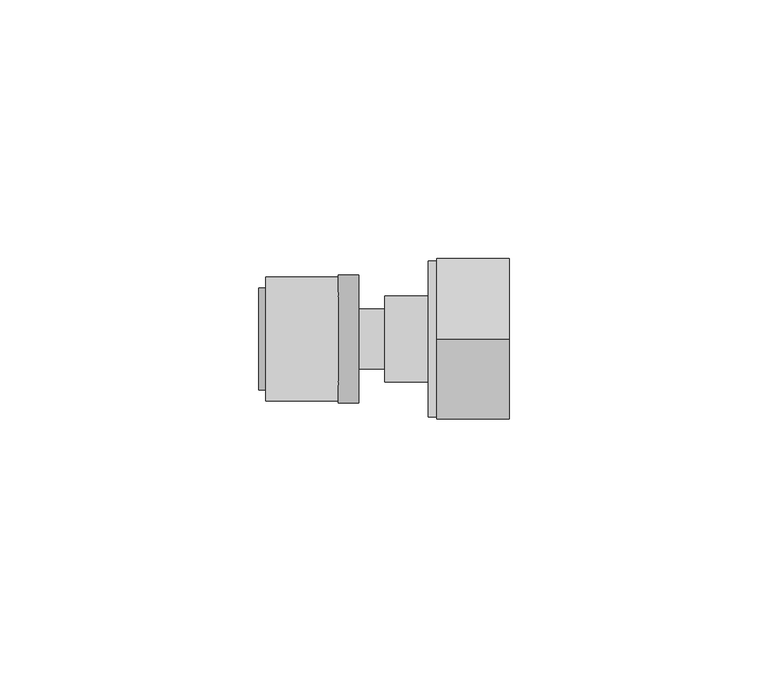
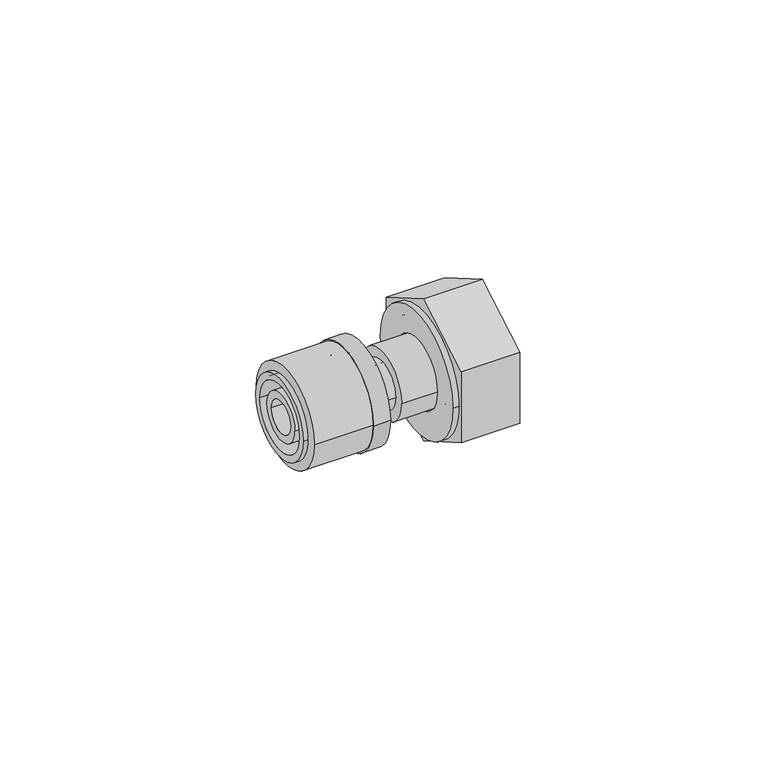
"""IFC4 building model written with IfcOpenShell, lengths in millimetres: pipe fitting geometry, FASTLOC_Adapter with union nut EX+ : FSL A union nut EX+ AT."""

from ifc_helpers import new_model, si_unit, point, frame, origin, origin_2d, place, context, project, spatial, polyline, circle_curve, trimmed, segment, composite_curve, outline, extrude, source, transform, mapped, element, save
from ifc_brep_helpers import plane_surface, cylinder_surface, revolved_surface, advanced_brep


def pipe_fitting_ca26b6f5(model_context):
    return source(origin(), model_context, "Body", "SolidModel", [
        extrude(outline(composite_curve([segment(trimmed(circle_curve(origin_2d(), 12.0), [point((12.0, 0.0))], [point((-12.0, 0.0))], False, "CARTESIAN"), True, "CONTINUOUS"), segment(trimmed(circle_curve(origin_2d(), 12.0), [point((-12.0, 0.0))], [point((12.0, 0.0))], False, "CARTESIAN"), True, "CONTINUOUS")], self_intersect=False), holes=[composite_curve([segment(trimmed(circle_curve(origin_2d(), 8.85), [point((8.85, 0.0))], [point((-8.85, 0.0))], True, "CARTESIAN"), True, "CONTINUOUS"), segment(trimmed(circle_curve(origin_2d(), 8.85), [point((-8.85, 0.0))], [point((8.85, 0.0))], True, "CARTESIAN"), True, "CONTINUOUS")], self_intersect=False)]), frame((-23.0, 0.0, 0.0), z_axis=(1.0, 0.0, 0.0), x_axis=(0.0, 1.0, 0.0)), (0.0, 0.0, 1.0), 14.0),
        advanced_brep(
        [(-9.0, -12.35, 0.0), (-9.0, 12.35, 0.0), (-5.0, 12.35, 0.0), (-5.0, -12.35, 0.0), (-24.3, -9.85, 0.0), (-24.3, 9.85, 0.0), (-9.0, 9.85, 0.0), (-9.0, -9.85, 0.0), (-5.0, -8.15, 0.0), (-5.0, 8.15, 0.0), (-24.3, 8.15, 0.0), (-24.3, -8.15, 0.0)],
        [
            (0, 1, circle_curve(frame((-9.0, 0.0, 0.0), z_axis=(1.0, 0.0, 0.0), x_axis=(0.0, 1.0, 0.0)), 12.35)),
            (1, 2),
            (2, 3, circle_curve(frame((-5.0, 0.0, 0.0), z_axis=(-1.0, 0.0, 0.0), x_axis=(0.0, 1.0, 0.0)), 12.35)),
            (3, 0),
            (4, 5, circle_curve(frame((-24.3, 0.0, 0.0), z_axis=(1.0, 0.0, 0.0), x_axis=(0.0, 1.0, 0.0)), 9.85)),
            (5, 6),
            (6, 7, circle_curve(frame((-9.0, 0.0, 0.0), z_axis=(-1.0, 0.0, 0.0), x_axis=(0.0, 1.0, 0.0)), 9.85)),
            (7, 4),
            (8, 9, circle_curve(frame((-5.0, 0.0, 0.0), z_axis=(1.0, 0.0, 0.0), x_axis=(0.0, 1.0, 0.0)), 8.15)),
            (9, 10),
            (10, 11, circle_curve(frame((-24.3, 0.0, 0.0), z_axis=(-1.0, 0.0, 0.0), x_axis=(0.0, 1.0, 0.0)), 8.15)),
            (11, 8),
            (1, 0, circle_curve(frame((-9.0, 0.0, 0.0), z_axis=(1.0, 0.0, 0.0), x_axis=(0.0, -1.0, 0.0)), 12.35)),
            (3, 2, circle_curve(frame((-5.0, 0.0, 0.0), z_axis=(-1.0, 0.0, 0.0), x_axis=(0.0, -1.0, 0.0)), 12.35)),
            (6, 7, circle_curve(frame((-9.0, 0.0, 0.0), z_axis=(1.0, 0.0, 0.0), x_axis=(0.0, -1.0, 0.0)), 9.85)),
            (5, 4, circle_curve(frame((-24.3, 0.0, 0.0), z_axis=(1.0, 0.0, 0.0), x_axis=(0.0, -1.0, 0.0)), 9.85)),
            (10, 11, circle_curve(frame((-24.3, 0.0, 0.0), z_axis=(1.0, 0.0, 0.0), x_axis=(0.0, -1.0, 0.0)), 8.15)),
            (9, 8, circle_curve(frame((-5.0, 0.0, 0.0), z_axis=(1.0, 0.0, 0.0), x_axis=(0.0, -1.0, 0.0)), 8.15)),
        ],
        [
            cylinder_surface(frame((-5.0, 0.0, 0.0), z_axis=(-1.0, 0.0, 0.0), x_axis=(0.0, 1.0, 0.0)), 12.35),
            cylinder_surface(frame((-5.0, 0.0, 0.0), z_axis=(-1.0, 0.0, 0.0), x_axis=(0.0, 1.0, 0.0)), 9.85),
            revolved_surface(polyline([(-24.3, 8.15, 0.0), (-5.0, 8.15, 0.0)]), (-5.0, 0.0, 0.0), (-1.0, 0.0, 0.0)),
            cylinder_surface(frame((-5.0, 0.0, 0.0), z_axis=(-1.0, 0.0, 0.0), x_axis=(0.0, -1.0, 0.0)), 12.35),
            plane_surface(frame((-9.0, 0.0, 0.0), z_axis=(-1.0, 0.0, 0.0), x_axis=(0.0, -1.0, 0.0))),
            cylinder_surface(frame((-5.0, 0.0, 0.0), z_axis=(-1.0, 0.0, 0.0), x_axis=(0.0, -1.0, 0.0)), 9.85),
            plane_surface(frame((-24.3, 0.0, 0.0), z_axis=(-1.0, 0.0, 0.0), x_axis=(0.0, -1.0, 0.0))),
            revolved_surface(polyline([(-24.3, -8.15, 0.0), (-5.0, -8.15, 0.0)]), (-5.0, 0.0, 0.0), (-1.0, 0.0, 0.0)),
            plane_surface(frame((-5.0, 0.0, 0.0), z_axis=(1.0, 0.0, 0.0), x_axis=(0.0, -1.0, 0.0))),
        ],
        [
            (0, [[1, 2, 3, 4]]),
            (1, [[5, 6, 7, 8]]),
            (2, [[9, 10, 11, 12]]),
            (3, [[13, -4, 14, -2]]),
            (4, [[-13, -1], [15, -7]]),
            (5, [[16, -8, -15, -6]]),
            (6, [[-16, -5], [17, -11]]),
            (7, [[18, -12, -17, -10]]),
            (8, [[-14, -3], [-18, -9]]),
        ],
    ),
        advanced_brep(
        [(-9.0, 5.8, 0.0), (-9.0, -5.8, 0.0), (-24.0, -5.8, 0.0), (-24.0, 5.8, 0.0), (-6.3, 6.9, 0.0), (-6.3, -6.9, 0.0), (-9.0, -6.9, 0.0), (-9.0, 6.9, 0.0), (0.0, 5.8, 0.0), (0.0, -5.8, 0.0), (-6.3, -5.8, 0.0), (-6.3, 5.8, 0.0), (-24.0, 3.95, 0.0), (-24.0, -3.95, 0.0), (0.0, -3.95, 0.0), (0.0, 3.95, 0.0)],
        [
            (0, 1, circle_curve(frame((-9.0, 0.0, 0.0), z_axis=(-1.0, 0.0, 0.0), x_axis=(0.0, -1.0, 0.0)), 5.8)),
            (1, 2),
            (2, 3, circle_curve(frame((-24.0, 0.0, 0.0), z_axis=(1.0, 0.0, 0.0), x_axis=(0.0, -1.0, 0.0)), 5.8)),
            (3, 0),
            (4, 5, circle_curve(frame((-6.3, 0.0, 0.0), z_axis=(-1.0, 0.0, 0.0), x_axis=(0.0, -1.0, 0.0)), 6.9)),
            (5, 6),
            (6, 7, circle_curve(frame((-9.0, 0.0, 0.0), z_axis=(1.0, 0.0, 0.0), x_axis=(0.0, -1.0, 0.0)), 6.9)),
            (7, 4),
            (8, 9, circle_curve(frame((0.0, 0.0, 0.0), z_axis=(-1.0, 0.0, 0.0), x_axis=(0.0, -1.0, 0.0)), 5.8)),
            (9, 10),
            (10, 11, circle_curve(frame((-6.3, 0.0, 0.0), z_axis=(1.0, 0.0, 0.0), x_axis=(0.0, -1.0, 0.0)), 5.8)),
            (11, 8),
            (12, 13, circle_curve(frame((-24.0, 0.0, 0.0), z_axis=(-1.0, 0.0, 0.0), x_axis=(0.0, -1.0, 0.0)), 3.95)),
            (13, 14),
            (14, 15, circle_curve(frame((0.0, 0.0, 0.0), z_axis=(1.0, 0.0, 0.0), x_axis=(0.0, -1.0, 0.0)), 3.95)),
            (15, 12),
            (2, 3, circle_curve(frame((-24.0, 0.0, 0.0), z_axis=(-1.0, 0.0, 0.0), x_axis=(0.0, 1.0, 0.0)), 5.8)),
            (12, 13, circle_curve(frame((-24.0, 0.0, 0.0), z_axis=(1.0, 0.0, 0.0), x_axis=(0.0, 1.0, 0.0)), 3.95)),
            (1, 0, circle_curve(frame((-9.0, 0.0, 0.0), z_axis=(-1.0, 0.0, 0.0), x_axis=(0.0, 1.0, 0.0)), 5.8)),
            (6, 7, circle_curve(frame((-9.0, 0.0, 0.0), z_axis=(-1.0, 0.0, 0.0), x_axis=(0.0, 1.0, 0.0)), 6.9)),
            (5, 4, circle_curve(frame((-6.3, 0.0, 0.0), z_axis=(-1.0, 0.0, 0.0), x_axis=(0.0, 1.0, 0.0)), 6.9)),
            (10, 11, circle_curve(frame((-6.3, 0.0, 0.0), z_axis=(-1.0, 0.0, 0.0), x_axis=(0.0, 1.0, 0.0)), 5.8)),
            (9, 8, circle_curve(frame((0.0, 0.0, 0.0), z_axis=(-1.0, 0.0, 0.0), x_axis=(0.0, 1.0, 0.0)), 5.8)),
            (14, 15, circle_curve(frame((0.0, 0.0, 0.0), z_axis=(-1.0, 0.0, 0.0), x_axis=(0.0, 1.0, 0.0)), 3.95)),
        ],
        [
            cylinder_surface(frame((0.0, 0.0, 0.0), z_axis=(1.0, 0.0, 0.0), x_axis=(0.0, -1.0, 0.0)), 5.8),
            cylinder_surface(frame((0.0, 0.0, 0.0), z_axis=(1.0, 0.0, 0.0), x_axis=(0.0, -1.0, 0.0)), 6.9),
            revolved_surface(polyline([(0.0, -3.95, 0.0), (-24.0, -3.95, 0.0)]), (0.0, 0.0, 0.0), (1.0, 0.0, 0.0)),
            plane_surface(frame((-24.0, 0.0, 0.0), z_axis=(-1.0, 0.0, 0.0), x_axis=(0.0, 1.0, 0.0))),
            cylinder_surface(frame((0.0, 0.0, 0.0), z_axis=(1.0, 0.0, 0.0), x_axis=(0.0, 1.0, 0.0)), 5.8),
            plane_surface(frame((-9.0, 0.0, 0.0), z_axis=(-1.0, 0.0, 0.0), x_axis=(0.0, 1.0, 0.0))),
            cylinder_surface(frame((0.0, 0.0, 0.0), z_axis=(1.0, 0.0, 0.0), x_axis=(0.0, 1.0, 0.0)), 6.9),
            plane_surface(frame((-6.3, 0.0, 0.0), z_axis=(1.0, 0.0, 0.0), x_axis=(0.0, 1.0, 0.0))),
            plane_surface(frame((0.0, 0.0, 0.0), z_axis=(1.0, 0.0, 0.0), x_axis=(0.0, 1.0, 0.0))),
            revolved_surface(polyline([(0.0, 3.95, 0.0), (-24.0, 3.95, 0.0)]), (0.0, 0.0, 0.0), (1.0, 0.0, 0.0)),
        ],
        [
            (0, [[1, 2, 3, 4]]),
            (1, [[5, 6, 7, 8]]),
            (0, [[9, 10, 11, 12]]),
            (2, [[13, 14, 15, 16]]),
            (3, [[17, -3], [18, -13]]),
            (4, [[19, -4, -17, -2]]),
            (5, [[20, -7], [-19, -1]]),
            (6, [[21, -8, -20, -6]]),
            (7, [[-21, -5], [22, -11]]),
            (4, [[23, -12, -22, -10]]),
            (8, [[-23, -9], [24, -15]]),
            (9, [[-18, -16, -24, -14]]),
        ],
    ),
        extrude(outline(polyline([(0.0, -17.8978583), (-15.5, -8.9489292), (-15.5, 8.9489292), (0.0, 17.8978583), (15.5, 8.9489292), (15.5, -8.9489292), (0.0, -17.8978583)]), holes=[composite_curve([segment(trimmed(circle_curve(origin_2d(), 12.1), [point((-12.1, 0.0))], [point((12.1, 0.0))], True, "CARTESIAN"), True, "CONTINUOUS"), segment(trimmed(circle_curve(origin_2d(), 12.1), [point((12.1, 0.0))], [point((-12.1, 0.0))], True, "CARTESIAN"), True, "CONTINUOUS")], self_intersect=False)]), frame((10.0, 0.0, 0.0), z_axis=(1.0, 0.0, 0.0), x_axis=(0.0, 1.0, 0.0)), (0.0, 0.0, 1.0), 14.0),
        advanced_brep(
        [(24.0, 15.1, 0.0), (24.0, -15.1, 0.0), (8.4, -15.1, 0.0), (8.4, 15.1, 0.0), (12.0, 12.1, 0.0), (12.0, -12.1, 0.0), (24.0, -12.1, 0.0), (24.0, 12.1, 0.0), (8.4, 8.5, 0.0), (8.4, -8.5, 0.0), (12.0, -8.5, 0.0), (12.0, 8.5, 0.0)],
        [
            (0, 1, circle_curve(frame((24.0, 0.0, 0.0), z_axis=(-1.0, 0.0, 0.0), x_axis=(0.0, -1.0, 0.0)), 15.1)),
            (1, 2),
            (2, 3, circle_curve(frame((8.4, 0.0, 0.0), z_axis=(1.0, 0.0, 0.0), x_axis=(0.0, -1.0, 0.0)), 15.1)),
            (3, 0),
            (4, 5, circle_curve(frame((12.0, 0.0, 0.0), z_axis=(-1.0, 0.0, 0.0), x_axis=(0.0, -1.0, 0.0)), 12.1)),
            (5, 6),
            (6, 7, circle_curve(frame((24.0, 0.0, 0.0), z_axis=(1.0, 0.0, 0.0), x_axis=(0.0, -1.0, 0.0)), 12.1)),
            (7, 4),
            (8, 9, circle_curve(frame((8.4, 0.0, 0.0), z_axis=(-1.0, 0.0, 0.0), x_axis=(0.0, -1.0, 0.0)), 8.5)),
            (9, 10),
            (10, 11, circle_curve(frame((12.0, 0.0, 0.0), z_axis=(1.0, 0.0, 0.0), x_axis=(0.0, -1.0, 0.0)), 8.5)),
            (11, 8),
            (1, 0, circle_curve(frame((24.0, 0.0, 0.0), z_axis=(-1.0, 0.0, 0.0), x_axis=(0.0, 1.0, 0.0)), 15.1)),
            (3, 2, circle_curve(frame((8.4, 0.0, 0.0), z_axis=(1.0, 0.0, 0.0), x_axis=(0.0, 1.0, 0.0)), 15.1)),
            (6, 7, circle_curve(frame((24.0, 0.0, 0.0), z_axis=(-1.0, 0.0, 0.0), x_axis=(0.0, 1.0, 0.0)), 12.1)),
            (5, 4, circle_curve(frame((12.0, 0.0, 0.0), z_axis=(-1.0, 0.0, 0.0), x_axis=(0.0, 1.0, 0.0)), 12.1)),
            (10, 11, circle_curve(frame((12.0, 0.0, 0.0), z_axis=(-1.0, 0.0, 0.0), x_axis=(0.0, 1.0, 0.0)), 8.5)),
            (9, 8, circle_curve(frame((8.4, 0.0, 0.0), z_axis=(-1.0, 0.0, 0.0), x_axis=(0.0, 1.0, 0.0)), 8.5)),
        ],
        [
            cylinder_surface(frame((0.0, 0.0, 0.0), z_axis=(1.0, 0.0, 0.0), x_axis=(0.0, -1.0, 0.0)), 15.1),
            revolved_surface(polyline([(24.0, -12.1, 0.0), (12.0, -12.1, 0.0)]), (0.0, 0.0, 0.0), (1.0, 0.0, 0.0)),
            revolved_surface(polyline([(12.0, -8.5, 0.0), (8.4, -8.5, 0.0)]), (0.0, 0.0, 0.0), (1.0, 0.0, 0.0)),
            cylinder_surface(frame((0.0, 0.0, 0.0), z_axis=(1.0, 0.0, 0.0), x_axis=(0.0, 1.0, 0.0)), 15.1),
            plane_surface(frame((24.0, 0.0, 0.0), z_axis=(1.0, 0.0, 0.0), x_axis=(0.0, 1.0, 0.0))),
            revolved_surface(polyline([(24.0, 12.1, 0.0), (12.0, 12.1, 0.0)]), (0.0, 0.0, 0.0), (1.0, 0.0, 0.0)),
            plane_surface(frame((12.0, 0.0, 0.0), z_axis=(1.0, 0.0, 0.0), x_axis=(0.0, 1.0, 0.0))),
            revolved_surface(polyline([(12.0, 8.5, 0.0), (8.4, 8.5, 0.0)]), (0.0, 0.0, 0.0), (1.0, 0.0, 0.0)),
            plane_surface(frame((8.4, 0.0, 0.0), z_axis=(-1.0, 0.0, 0.0), x_axis=(0.0, 1.0, 0.0))),
        ],
        [
            (0, [[1, 2, 3, 4]]),
            (1, [[5, 6, 7, 8]]),
            (2, [[9, 10, 11, 12]]),
            (3, [[13, -4, 14, -2]]),
            (4, [[-13, -1], [15, -7]]),
            (5, [[16, -8, -15, -6]]),
            (6, [[-16, -5], [17, -11]]),
            (7, [[18, -12, -17, -10]]),
            (8, [[-14, -3], [-18, -9]]),
        ],
    ),
        advanced_brep(
        [(12.0, 8.275, 0.0), (12.0, -8.275, 0.0), (0.0, -8.275, 0.0), (0.0, 8.275, 0.0), (13.95, 12.25, 0.0), (13.95, -12.25, 0.0), (12.0, -12.25, 0.0), (12.0, 12.25, 0.0), (1.4730817, 6.25, 0.0), (1.4730817, -6.25, 0.0), (13.95, -6.25, 0.0), (13.95, 6.25, 0.0), (0.0, 4.0764556, 0.0), (0.0, -4.0764556, 0.0), (1.4730817, -4.0764556, 0.0), (1.4730817, 4.0764556, 0.0)],
        [
            (0, 1, circle_curve(frame((12.0, 0.0, 0.0), z_axis=(-1.0, 0.0, 0.0), x_axis=(0.0, -1.0, 0.0)), 8.275)),
            (1, 2),
            (2, 3, circle_curve(frame((0.0, 0.0, 0.0), z_axis=(1.0, 0.0, 0.0), x_axis=(0.0, -1.0, 0.0)), 8.275)),
            (3, 0),
            (4, 5, circle_curve(frame((13.95, 0.0, 0.0), z_axis=(-1.0, 0.0, 0.0), x_axis=(0.0, -1.0, 0.0)), 12.25)),
            (5, 6),
            (6, 7, circle_curve(frame((12.0, 0.0, 0.0), z_axis=(1.0, 0.0, 0.0), x_axis=(0.0, -1.0, 0.0)), 12.25)),
            (7, 4),
            (8, 9, circle_curve(frame((1.4730817, 0.0, 0.0), z_axis=(-1.0, 0.0, 0.0), x_axis=(0.0, -1.0, 0.0)), 6.25)),
            (9, 10),
            (10, 11, circle_curve(frame((13.95, 0.0, 0.0), z_axis=(1.0, 0.0, 0.0), x_axis=(0.0, -1.0, 0.0)), 6.25)),
            (11, 8),
            (12, 13, circle_curve(frame((0.0, 0.0, 0.0), z_axis=(-1.0, 0.0, 0.0), x_axis=(0.0, -1.0, 0.0)), 4.0764556)),
            (13, 14),
            (14, 15, circle_curve(frame((1.4730817, 0.0, 0.0), z_axis=(1.0, 0.0, 0.0), x_axis=(0.0, -1.0, 0.0)), 4.0764556)),
            (15, 12),
            (2, 3, circle_curve(frame((0.0, 0.0, 0.0), z_axis=(-1.0, 0.0, 0.0), x_axis=(0.0, 1.0, 0.0)), 8.275)),
            (12, 13, circle_curve(frame((0.0, 0.0, 0.0), z_axis=(1.0, 0.0, 0.0), x_axis=(0.0, 1.0, 0.0)), 4.0764556)),
            (1, 0, circle_curve(frame((12.0, 0.0, 0.0), z_axis=(-1.0, 0.0, 0.0), x_axis=(0.0, 1.0, 0.0)), 8.275)),
            (6, 7, circle_curve(frame((12.0, 0.0, 0.0), z_axis=(-1.0, 0.0, 0.0), x_axis=(0.0, 1.0, 0.0)), 12.25)),
            (5, 4, circle_curve(frame((13.95, 0.0, 0.0), z_axis=(-1.0, 0.0, 0.0), x_axis=(0.0, 1.0, 0.0)), 12.25)),
            (10, 11, circle_curve(frame((13.95, 0.0, 0.0), z_axis=(-1.0, 0.0, 0.0), x_axis=(0.0, 1.0, 0.0)), 6.25)),
            (9, 8, circle_curve(frame((1.4730817, 0.0, 0.0), z_axis=(-1.0, 0.0, 0.0), x_axis=(0.0, 1.0, 0.0)), 6.25)),
            (14, 15, circle_curve(frame((1.4730817, 0.0, 0.0), z_axis=(-1.0, 0.0, 0.0), x_axis=(0.0, 1.0, 0.0)), 4.0764556)),
        ],
        [
            cylinder_surface(frame((0.0, 0.0, 0.0), z_axis=(1.0, 0.0, 0.0), x_axis=(0.0, -1.0, 0.0)), 8.275),
            cylinder_surface(frame((0.0, 0.0, 0.0), z_axis=(1.0, 0.0, 0.0), x_axis=(0.0, -1.0, 0.0)), 12.25),
            revolved_surface(polyline([(13.95, -6.25, 0.0), (1.4730817, -6.25, 0.0)]), (0.0, 0.0, 0.0), (1.0, 0.0, 0.0)),
            revolved_surface(polyline([(1.4730817, -4.0764556, 0.0), (0.0, -4.0764556, 0.0)]), (0.0, 0.0, 0.0), (1.0, 0.0, 0.0)),
            plane_surface(frame((0.0, 0.0, 0.0), z_axis=(-1.0, 0.0, 0.0), x_axis=(0.0, 1.0, 0.0))),
            cylinder_surface(frame((0.0, 0.0, 0.0), z_axis=(1.0, 0.0, 0.0), x_axis=(0.0, 1.0, 0.0)), 8.275),
            plane_surface(frame((12.0, 0.0, 0.0), z_axis=(-1.0, 0.0, 0.0), x_axis=(0.0, 1.0, 0.0))),
            cylinder_surface(frame((0.0, 0.0, 0.0), z_axis=(1.0, 0.0, 0.0), x_axis=(0.0, 1.0, 0.0)), 12.25),
            plane_surface(frame((13.95, 0.0, 0.0), z_axis=(1.0, 0.0, 0.0), x_axis=(0.0, 1.0, 0.0))),
            revolved_surface(polyline([(13.95, 6.25, 0.0), (1.4730817, 6.25, 0.0)]), (0.0, 0.0, 0.0), (1.0, 0.0, 0.0)),
            plane_surface(frame((1.4730817, 0.0, 0.0), z_axis=(1.0, 0.0, 0.0), x_axis=(0.0, 1.0, 0.0))),
            revolved_surface(polyline([(1.4730817, 4.0764556, 0.0), (0.0, 4.0764556, 0.0)]), (0.0, 0.0, 0.0), (1.0, 0.0, 0.0)),
        ],
        [
            (0, [[1, 2, 3, 4]]),
            (1, [[5, 6, 7, 8]]),
            (2, [[9, 10, 11, 12]]),
            (3, [[13, 14, 15, 16]]),
            (4, [[17, -3], [18, -13]]),
            (5, [[19, -4, -17, -2]]),
            (6, [[20, -7], [-19, -1]]),
            (7, [[21, -8, -20, -6]]),
            (8, [[-21, -5], [22, -11]]),
            (9, [[23, -12, -22, -10]]),
            (10, [[-23, -9], [24, -15]]),
            (11, [[-18, -16, -24, -14]]),
        ],
    ),
    ])


if __name__ == "__main__":
    model = new_model("IFC4")
    model_context = context("Model", 3, world=origin())
    ifc_project = project(units=[si_unit("LENGTHUNIT", "METRE", prefix="MILLI")], contexts=[model_context])
    site = spatial("IfcSite", under=ifc_project)
    building = spatial("IfcBuilding", under=site)
    placement = place(None, origin())
    pipe_fitting_shape = pipe_fitting_ca26b6f5(model_context)
    element("IfcPipeFitting", 1, ObjectType="FASTLOC_Adapter with union nut EX+ : FSL A union nut EX+ AT", at=placement, inside=building, context=model_context, shape_type="MappedRepresentation", body=[
        mapped(pipe_fitting_shape, transform((0.0, 0.0, 0.0), x_axis=(1.0, 0.0, 0.0), y_axis=(0.0, 1.0, 0.0), z_axis=(0.0, 0.0, 1.0))),
    ])
    save(model, "model.ifc")
